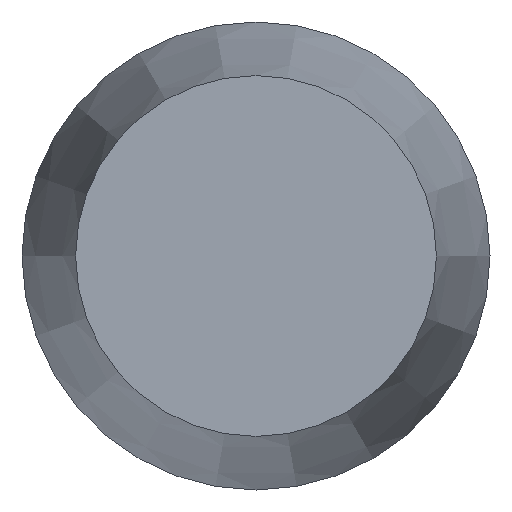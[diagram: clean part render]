
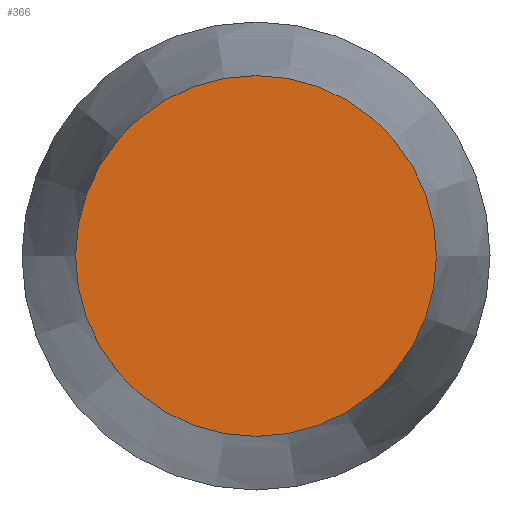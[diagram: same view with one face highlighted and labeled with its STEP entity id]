
A CAD part, left-side view. The second image highlights one B-rep face of the part: STEP entity #366.
In plain terms, the highlighted planar face has unit normal (-1, 0, 0).
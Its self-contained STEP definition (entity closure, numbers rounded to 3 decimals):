
#42=CIRCLE('',#412,7.75);
#81=FACE_OUTER_BOUND('',#110,.T.);
#110=EDGE_LOOP('',(#324));
#183=VERTEX_POINT('',#664);
#232=EDGE_CURVE('',#183,#183,#42,.T.);
#324=ORIENTED_EDGE('',*,*,#232,.F.);
#342=PLANE('',#411);
#366=ADVANCED_FACE('',(#81),#342,.T.);
#411=AXIS2_PLACEMENT_3D('',#663,#501,#502);
#412=AXIS2_PLACEMENT_3D('',#665,#503,#504);
#501=DIRECTION('center_axis',(-1.,0.,0.));
#502=DIRECTION('ref_axis',(0.,0.,1.));
#503=DIRECTION('center_axis',(1.,0.,0.));
#504=DIRECTION('ref_axis',(0.,1.,0.));
#663=CARTESIAN_POINT('Origin',(-17.5,3.875,0.));
#664=CARTESIAN_POINT('',(-17.5,7.75,0.));
#665=CARTESIAN_POINT('Origin',(-17.5,0.,0.));
